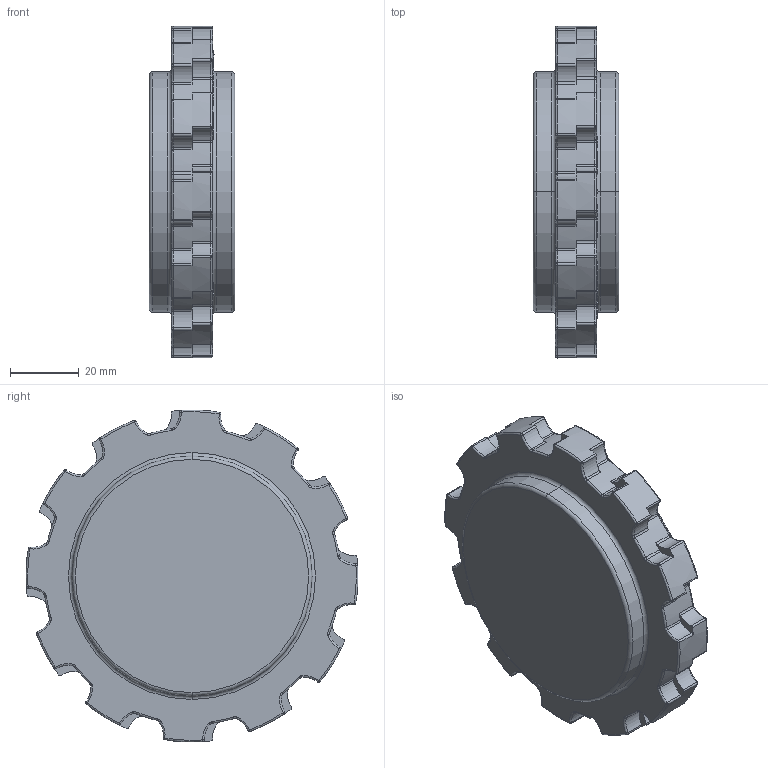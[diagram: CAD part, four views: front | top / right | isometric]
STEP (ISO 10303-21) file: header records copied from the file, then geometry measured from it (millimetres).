
FILE_DESCRIPTION((''),'2;1');
FILE_NAME('19Z12','2009-09-09T',('mth'),(''),'PRO/ENGINEER BY PARAMETRIC TECHNOLOGY CORPORATION, 2008490','PRO/ENGINEER BY PARAMETRIC TECHNOLOGY CORPORATION, 2008490','');
FILE_SCHEMA(('AUTOMOTIVE_DESIGN { 1 0 10303 214 1 1 1 1 }'));
Length unit declared in the file: millimetre
Products named in the file (1): 19Z12
Bounding box: 25 x 96.78 x 96.78 mm (x, y, z)
Volume: 130177.7 mm3; surface area: 20435.8 mm2
Topology: 1 solids, 1 shells, 745 faces, 1909 edges, 1189 vertices
Faces by surface type: plane 361, cylinder 182, torus 152, sphere 48, cone 2
Entity records: 22552 total; most frequent: DIRECTION 4163, CARTESIAN_POINT 3842, ORIENTED_EDGE 3814, EDGE_CURVE 1907, AXIS2_PLACEMENT_3D 1511, VERTEX_POINT 1189, VECTOR 1141, LINE 1141
